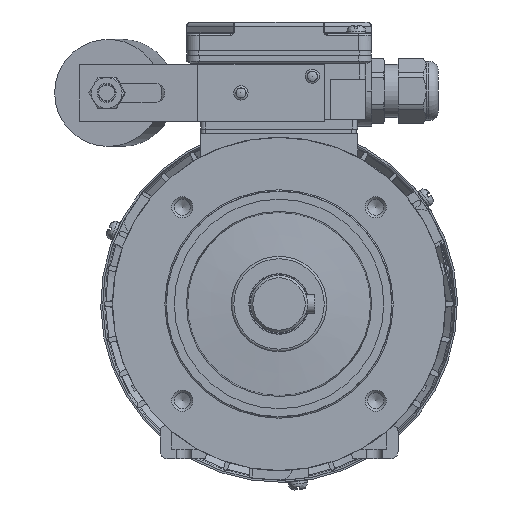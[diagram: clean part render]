
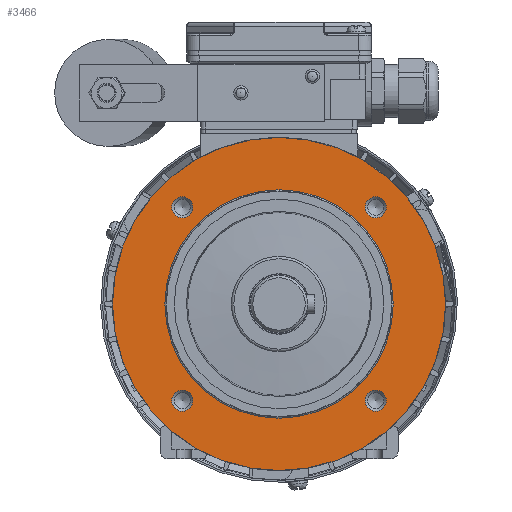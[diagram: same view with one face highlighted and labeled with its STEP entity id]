
A CAD part, left-side view. The second image highlights one B-rep face of the part: STEP entity #3466.
In plain terms, the highlighted planar face has unit normal (-1, 0, 0) as drawn and (0, -1, 0) by its records, which use the part's own axes.
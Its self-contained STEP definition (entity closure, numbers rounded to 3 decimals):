
#3466 = ADVANCED_FACE( '', ( #7985, #7986, #7987, #7988, #7989, #7990 ), #7991, .F. );
#7985 = FACE_BOUND( '', #17609, .T. );
#7986 = FACE_BOUND( '', #17610, .T. );
#7987 = FACE_BOUND( '', #17611, .T. );
#7988 = FACE_BOUND( '', #17612, .T. );
#7989 = FACE_BOUND( '', #17613, .T. );
#7990 = FACE_OUTER_BOUND( '', #17614, .T. );
#7991 = PLANE( '', #17615 );
#17609 = EDGE_LOOP( '', ( #38576 ) );
#17610 = EDGE_LOOP( '', ( #38577 ) );
#17611 = EDGE_LOOP( '', ( #38578 ) );
#17612 = EDGE_LOOP( '', ( #38579 ) );
#17613 = EDGE_LOOP( '', ( #38580 ) );
#17614 = EDGE_LOOP( '', ( #38581 ) );
#17615 = AXIS2_PLACEMENT_3D( '', #38582, #38583, #38584 );
#38576 = ORIENTED_EDGE( '', *, *, #70363, .T. );
#38577 = ORIENTED_EDGE( '', *, *, #70364, .T. );
#38578 = ORIENTED_EDGE( '', *, *, #70365, .T. );
#38579 = ORIENTED_EDGE( '', *, *, #70366, .T. );
#38580 = ORIENTED_EDGE( '', *, *, #70367, .T. );
#38581 = ORIENTED_EDGE( '', *, *, #69068, .T. );
#38582 = CARTESIAN_POINT( '', ( 0., 3., 70. ) );
#38583 = DIRECTION( '', ( 0., 1., 0. ) );
#38584 = DIRECTION( '', ( 0., 0., 1. ) );
#69068 = EDGE_CURVE( '', #82972, #82972, #82973, .T. );
#70363 = EDGE_CURVE( '', #85073, #85073, #85074, .T. );
#70364 = EDGE_CURVE( '', #85075, #85075, #85076, .T. );
#70365 = EDGE_CURVE( '', #85077, #85077, #85078, .T. );
#70366 = EDGE_CURVE( '', #85079, #85079, #85080, .T. );
#70367 = EDGE_CURVE( '', #85081, #85081, #85082, .T. );
#82972 = VERTEX_POINT( '', #95889 );
#82973 = CIRCLE( '', #95890, 70. );
#85073 = VERTEX_POINT( '', #101300 );
#85074 = CIRCLE( '', #101301, 4.4 );
#85075 = VERTEX_POINT( '', #101302 );
#85076 = CIRCLE( '', #101303, 4.4 );
#85077 = VERTEX_POINT( '', #101304 );
#85078 = CIRCLE( '', #101305, 4.4 );
#85079 = VERTEX_POINT( '', #101306 );
#85080 = CIRCLE( '', #101307, 4.4 );
#85081 = VERTEX_POINT( '', #101308 );
#85082 = CIRCLE( '', #101309, 48. );
#95889 = CARTESIAN_POINT( '', ( 0., 3., -70. ) );
#95890 = AXIS2_PLACEMENT_3D( '', #120300, #120301, #120302 );
#101300 = CARTESIAN_POINT( '', ( -40.659, 3., -36.259 ) );
#101301 = AXIS2_PLACEMENT_3D( '', #121804, #121805, #121806 );
#101302 = CARTESIAN_POINT( '', ( 40.659, 3., -36.259 ) );
#101303 = AXIS2_PLACEMENT_3D( '', #121807, #121808, #121809 );
#101304 = CARTESIAN_POINT( '', ( 40.659, 3., 45.059 ) );
#101305 = AXIS2_PLACEMENT_3D( '', #121810, #121811, #121812 );
#101306 = CARTESIAN_POINT( '', ( -40.659, 3., 45.059 ) );
#101307 = AXIS2_PLACEMENT_3D( '', #121813, #121814, #121815 );
#101308 = CARTESIAN_POINT( '', ( 0., 3., 48. ) );
#101309 = AXIS2_PLACEMENT_3D( '', #121816, #121817, #121818 );
#120300 = CARTESIAN_POINT( '', ( 0., 3., 0. ) );
#120301 = DIRECTION( '', ( 0., -1., 0. ) );
#120302 = DIRECTION( '', ( 0., 0., -1. ) );
#121804 = CARTESIAN_POINT( '', ( -40.659, 3., -40.659 ) );
#121805 = DIRECTION( '', ( 0., 1., 0. ) );
#121806 = DIRECTION( '', ( 0., 0., 1. ) );
#121807 = CARTESIAN_POINT( '', ( 40.659, 3., -40.659 ) );
#121808 = DIRECTION( '', ( 0., 1., 0. ) );
#121809 = DIRECTION( '', ( 0., 0., 1. ) );
#121810 = CARTESIAN_POINT( '', ( 40.659, 3., 40.659 ) );
#121811 = DIRECTION( '', ( 0., 1., 0. ) );
#121812 = DIRECTION( '', ( 0., 0., 1. ) );
#121813 = CARTESIAN_POINT( '', ( -40.659, 3., 40.659 ) );
#121814 = DIRECTION( '', ( 0., 1., 0. ) );
#121815 = DIRECTION( '', ( 0., 0., 1. ) );
#121816 = CARTESIAN_POINT( '', ( 0., 3., 0. ) );
#121817 = DIRECTION( '', ( 0., 1., 0. ) );
#121818 = DIRECTION( '', ( 0., 0., 1. ) );
